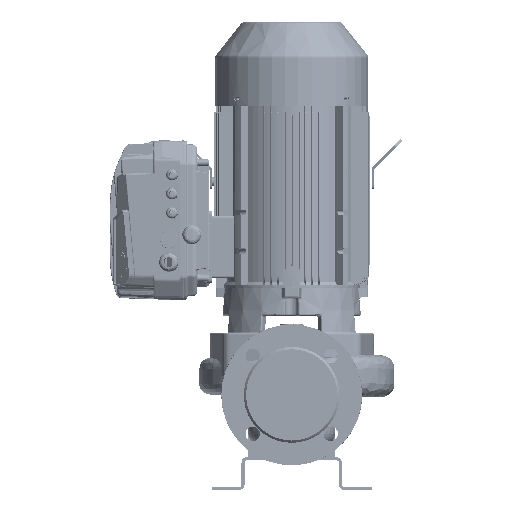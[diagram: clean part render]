
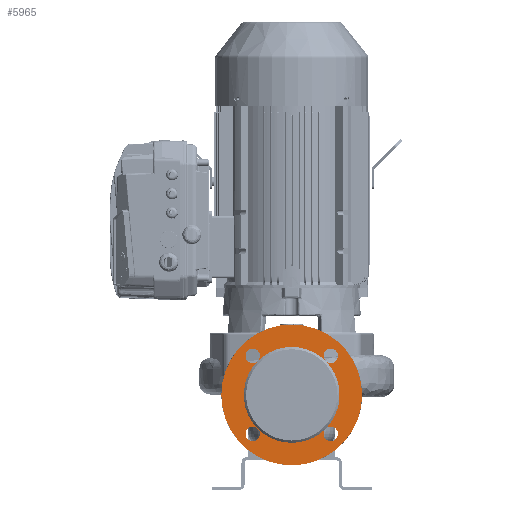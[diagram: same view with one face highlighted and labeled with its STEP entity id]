
A CAD part, front view. The second image highlights one B-rep face of the part: STEP entity #5965.
In plain terms, the highlighted planar face has unit normal (0, -1, 0) as drawn and (0, 1, 0) by its records, which use the part's own axes.
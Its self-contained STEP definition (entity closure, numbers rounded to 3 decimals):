
#5965=ADVANCED_FACE('',(#15212,#15213),#15214,.T.);
#5991=EDGE_CURVE('',#15254,#15255,#15256,.T.);
#5993=EDGE_CURVE('',#15258,#15254,#15259,.T.);
#5995=EDGE_CURVE('',#15261,#15258,#15262,.T.);
#5999=EDGE_CURVE('',#15268,#15269,#15270,.T.);
#6003=EDGE_CURVE('',#15276,#15277,#15278,.T.);
#6007=EDGE_CURVE('',#15284,#15285,#15286,.T.);
#6011=EDGE_CURVE('',#15292,#15293,#15294,.T.);
#6013=EDGE_CURVE('',#15296,#15297,#15298,.T.);
#6205=EDGE_CURVE('',#15297,#15296,#15593,.T.);
#6215=EDGE_CURVE('',#15258,#15292,#15603,.T.);
#6217=EDGE_CURVE('',#15293,#15258,#15605,.T.);
#6219=EDGE_CURVE('',#15254,#15284,#15607,.T.);
#6221=EDGE_CURVE('',#15285,#15254,#15609,.T.);
#6223=EDGE_CURVE('',#15611,#15276,#15612,.T.);
#6225=EDGE_CURVE('',#15277,#15611,#15614,.T.);
#6227=EDGE_CURVE('',#15616,#15268,#15617,.T.);
#6229=EDGE_CURVE('',#15269,#15616,#15619,.T.);
#6231=EDGE_CURVE('',#15255,#15611,#15621,.T.);
#6233=EDGE_CURVE('',#15611,#15616,#15623,.T.);
#6235=EDGE_CURVE('',#15616,#15261,#15625,.T.);
#15212=FACE_OUTER_BOUND('',#32017,.T.);
#15213=FACE_BOUND('',#32018,.T.);
#15214=PLANE('',#32019);
#15254=VERTEX_POINT('',#32657);
#15255=VERTEX_POINT('',#32658);
#15256=CIRCLE('',#32659,63.0);
#15258=VERTEX_POINT('',#32662);
#15259=CIRCLE('',#32663,63.0);
#15261=VERTEX_POINT('',#32666);
#15262=CIRCLE('',#32667,63.0);
#15268=VERTEX_POINT('',#32675);
#15269=VERTEX_POINT('',#32676);
#15270=CIRCLE('',#32677,9.5);
#15276=VERTEX_POINT('',#32685);
#15277=VERTEX_POINT('',#32686);
#15278=CIRCLE('',#32687,9.5);
#15284=VERTEX_POINT('',#32695);
#15285=VERTEX_POINT('',#32696);
#15286=CIRCLE('',#32697,9.5);
#15292=VERTEX_POINT('',#32705);
#15293=VERTEX_POINT('',#32706);
#15294=CIRCLE('',#32707,9.5);
#15296=VERTEX_POINT('',#32710);
#15297=VERTEX_POINT('',#32711);
#15298=CIRCLE('',#32712,92.5);
#15593=CIRCLE('',#33179,92.5);
#15603=CIRCLE('',#33194,9.5);
#15605=CIRCLE('',#33197,9.5);
#15607=CIRCLE('',#33200,9.5);
#15609=CIRCLE('',#33203,9.5);
#15611=VERTEX_POINT('',#33206);
#15612=CIRCLE('',#33207,9.5);
#15614=CIRCLE('',#33210,9.5);
#15616=VERTEX_POINT('',#33213);
#15617=CIRCLE('',#33214,9.5);
#15619=CIRCLE('',#33217,9.5);
#15621=CIRCLE('',#33220,63.0);
#15623=CIRCLE('',#33223,63.0);
#15625=CIRCLE('',#33226,63.0);
#32017=EDGE_LOOP('',(#101857,#101858));
#32018=EDGE_LOOP('',(#101859,#101860,#101861,#101862,#101863,#101864,#101865,#101866,#101867,#101868,#101869,#101870,#101871,#101872,#101873,#101874,#101875,#101876));
#32019=AXIS2_PLACEMENT_3D('',#101877,#101878,#101879);
#32657=CARTESIAN_POINT('',(44.548,165.,20.048));
#32658=CARTESIAN_POINT('',(0.,165.0,38.5));
#32659=AXIS2_PLACEMENT_3D('',#101969,#101970,#101971);
#32662=CARTESIAN_POINT('',(44.548,165.0,-69.048));
#32663=AXIS2_PLACEMENT_3D('',#101972,#101973,#101974);
#32666=CARTESIAN_POINT('',(0.,165.0,-87.5));
#32667=AXIS2_PLACEMENT_3D('',#101975,#101976,#101977);
#32675=CARTESIAN_POINT('',(-56.624,165.0,-67.921));
#32676=CARTESIAN_POINT('',(-45.906,165.0,-83.609));
#32677=AXIS2_PLACEMENT_3D('',#101981,#101982,#101983);
#32685=CARTESIAN_POINT('',(-43.421,165.,32.124));
#32686=CARTESIAN_POINT('',(-59.109,165.,21.406));
#32687=AXIS2_PLACEMENT_3D('',#101987,#101988,#101989);
#32695=CARTESIAN_POINT('',(56.624,165.,18.921));
#32696=CARTESIAN_POINT('',(45.906,165.,34.609));
#32697=AXIS2_PLACEMENT_3D('',#101993,#101994,#101995);
#32705=CARTESIAN_POINT('',(43.421,165.0,-81.124));
#32706=CARTESIAN_POINT('',(59.109,165.0,-70.406));
#32707=AXIS2_PLACEMENT_3D('',#101999,#102000,#102001);
#32710=CARTESIAN_POINT('',(0.,165.0,-117.0));
#32711=CARTESIAN_POINT('',(0.,165.0,68.0));
#32712=AXIS2_PLACEMENT_3D('',#102002,#102003,#102004);
#33179=AXIS2_PLACEMENT_3D('',#102250,#102251,#102252);
#33194=AXIS2_PLACEMENT_3D('',#102265,#102266,#102267);
#33197=AXIS2_PLACEMENT_3D('',#102268,#102269,#102270);
#33200=AXIS2_PLACEMENT_3D('',#102271,#102272,#102273);
#33203=AXIS2_PLACEMENT_3D('',#102274,#102275,#102276);
#33206=CARTESIAN_POINT('',(-44.548,165.,20.048));
#33207=AXIS2_PLACEMENT_3D('',#102277,#102278,#102279);
#33210=AXIS2_PLACEMENT_3D('',#102280,#102281,#102282);
#33213=CARTESIAN_POINT('',(-44.548,165.0,-69.048));
#33214=AXIS2_PLACEMENT_3D('',#102283,#102284,#102285);
#33217=AXIS2_PLACEMENT_3D('',#102286,#102287,#102288);
#33220=AXIS2_PLACEMENT_3D('',#102289,#102290,#102291);
#33223=AXIS2_PLACEMENT_3D('',#102292,#102293,#102294);
#33226=AXIS2_PLACEMENT_3D('',#102295,#102296,#102297);
#101857=ORIENTED_EDGE('',*,*,#6205,.F.);
#101858=ORIENTED_EDGE('',*,*,#6013,.F.);
#101859=ORIENTED_EDGE('',*,*,#5991,.T.);
#101860=ORIENTED_EDGE('',*,*,#6231,.T.);
#101861=ORIENTED_EDGE('',*,*,#6223,.T.);
#101862=ORIENTED_EDGE('',*,*,#6003,.T.);
#101863=ORIENTED_EDGE('',*,*,#6225,.T.);
#101864=ORIENTED_EDGE('',*,*,#6233,.T.);
#101865=ORIENTED_EDGE('',*,*,#6227,.T.);
#101866=ORIENTED_EDGE('',*,*,#5999,.T.);
#101867=ORIENTED_EDGE('',*,*,#6229,.T.);
#101868=ORIENTED_EDGE('',*,*,#6235,.T.);
#101869=ORIENTED_EDGE('',*,*,#5995,.T.);
#101870=ORIENTED_EDGE('',*,*,#6215,.T.);
#101871=ORIENTED_EDGE('',*,*,#6011,.T.);
#101872=ORIENTED_EDGE('',*,*,#6217,.T.);
#101873=ORIENTED_EDGE('',*,*,#5993,.T.);
#101874=ORIENTED_EDGE('',*,*,#6219,.T.);
#101875=ORIENTED_EDGE('',*,*,#6007,.T.);
#101876=ORIENTED_EDGE('',*,*,#6221,.T.);
#101877=CARTESIAN_POINT('',(0.,165.0,-102.25));
#101878=DIRECTION('',(0.0,1.0,0.0));
#101879=DIRECTION('',(0.0,0.0,1.0));
#101969=CARTESIAN_POINT('',(0.,165.0,-24.5));
#101970=DIRECTION('',(0.0,-1.0,0.0));
#101971=DIRECTION('',(0.,0.0,-1.0));
#101972=CARTESIAN_POINT('',(0.,165.0,-24.5));
#101973=DIRECTION('',(0.0,-1.0,0.0));
#101974=DIRECTION('',(0.,0.0,-1.0));
#101975=CARTESIAN_POINT('',(0.,165.0,-24.5));
#101976=DIRECTION('',(0.0,-1.0,0.0));
#101977=DIRECTION('',(0.,0.0,-1.0));
#101981=CARTESIAN_POINT('',(-51.265,165.0,-75.765));
#101982=DIRECTION('',(0.0,-1.0,0.0));
#101983=DIRECTION('',(-0.564,0.0,0.826));
#101987=CARTESIAN_POINT('',(-51.265,165.,26.765));
#101988=DIRECTION('',(0.0,-1.0,0.0));
#101989=DIRECTION('',(0.826,0.0,0.564));
#101993=CARTESIAN_POINT('',(51.265,165.,26.765));
#101994=DIRECTION('',(0.0,-1.0,0.0));
#101995=DIRECTION('',(0.564,0.0,-0.826));
#101999=CARTESIAN_POINT('',(51.265,165.0,-75.765));
#102000=DIRECTION('',(0.0,-1.0,-0.0));
#102001=DIRECTION('',(-0.826,0.0,-0.564));
#102002=CARTESIAN_POINT('',(0.,165.0,-24.5));
#102003=DIRECTION('',(0.0,-1.0,0.0));
#102004=DIRECTION('',(0.,0.0,-1.0));
#102250=CARTESIAN_POINT('',(0.,165.0,-24.5));
#102251=DIRECTION('',(0.0,-1.0,0.0));
#102252=DIRECTION('',(0.,0.0,-1.0));
#102265=CARTESIAN_POINT('',(51.265,165.0,-75.765));
#102266=DIRECTION('',(0.0,-1.0,-0.0));
#102267=DIRECTION('',(-0.826,0.0,-0.564));
#102268=CARTESIAN_POINT('',(51.265,165.0,-75.765));
#102269=DIRECTION('',(0.0,-1.0,-0.0));
#102270=DIRECTION('',(-0.826,0.0,-0.564));
#102271=CARTESIAN_POINT('',(51.265,165.,26.765));
#102272=DIRECTION('',(0.0,-1.0,0.0));
#102273=DIRECTION('',(0.564,0.0,-0.826));
#102274=CARTESIAN_POINT('',(51.265,165.,26.765));
#102275=DIRECTION('',(0.0,-1.0,0.0));
#102276=DIRECTION('',(0.564,0.0,-0.826));
#102277=CARTESIAN_POINT('',(-51.265,165.,26.765));
#102278=DIRECTION('',(0.0,-1.0,0.0));
#102279=DIRECTION('',(0.826,0.0,0.564));
#102280=CARTESIAN_POINT('',(-51.265,165.,26.765));
#102281=DIRECTION('',(0.0,-1.0,0.0));
#102282=DIRECTION('',(0.826,0.0,0.564));
#102283=CARTESIAN_POINT('',(-51.265,165.0,-75.765));
#102284=DIRECTION('',(0.0,-1.0,0.0));
#102285=DIRECTION('',(-0.564,0.0,0.826));
#102286=CARTESIAN_POINT('',(-51.265,165.0,-75.765));
#102287=DIRECTION('',(0.0,-1.0,0.0));
#102288=DIRECTION('',(-0.564,0.0,0.826));
#102289=CARTESIAN_POINT('',(0.,165.0,-24.5));
#102290=DIRECTION('',(0.0,-1.0,0.0));
#102291=DIRECTION('',(0.,0.0,-1.0));
#102292=CARTESIAN_POINT('',(0.,165.0,-24.5));
#102293=DIRECTION('',(0.0,-1.0,0.0));
#102294=DIRECTION('',(0.,0.0,-1.0));
#102295=CARTESIAN_POINT('',(0.,165.0,-24.5));
#102296=DIRECTION('',(0.0,-1.0,0.0));
#102297=DIRECTION('',(0.,0.0,-1.0));
